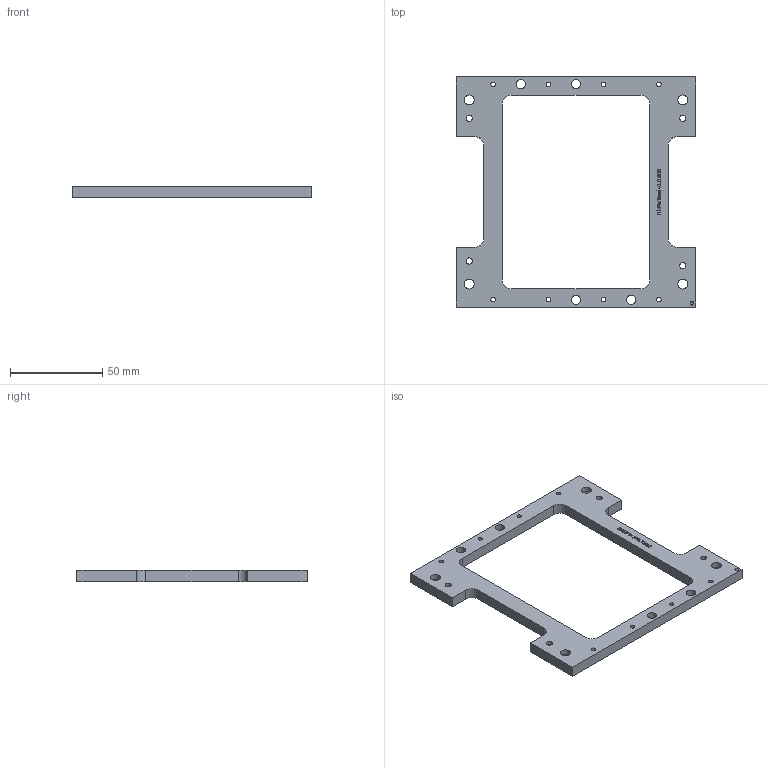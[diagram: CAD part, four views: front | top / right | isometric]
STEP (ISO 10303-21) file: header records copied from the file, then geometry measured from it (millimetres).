
FILE_DESCRIPTION(/* description */ ('Support Frame'),/* implementation_level */ '2;1');
FILE_NAME(/* name */ 'ITPT.03.00.001.stp',/* time_stamp */ '2025-02-12T14:40:31+01:00',/* author */ ('Rüdiger Widera'),/* organization */ (''),/* preprocessor_version */ 'ST-DEVELOPER v19.2',/* originating_system */ 'Autodesk Inventor 2024',/* authorisation */ '');
FILE_SCHEMA (('AUTOMOTIVE_DESIGN { 1 0 10303 214 3 1 1 }'));
Length unit declared in the file: millimetre
Products named in the file (1): ITPT.03.00.001
Bounding box: 130 x 125 x 6 mm (x, y, z)
Volume: 33986.5 mm3; surface area: 18808 mm2
Topology: 1 solids, 1 shells, 294 faces, 784 edges, 521 vertices
Faces by surface type: bspline 134, plane 122, cylinder 33, cone 5
Full cylindrical faces by diameter (mm): 2 x1, 2.459 x8, 3.4 x4, 5 x2, 5.1 x2, 5.4 x4, 8 x4
Entity records: 11889 total; most frequent: CARTESIAN_POINT 5249, ORIENTED_EDGE 1566, DIRECTION 907, EDGE_CURVE 783, VERTEX_POINT 521, LINE 445, VECTOR 445, EDGE_LOOP 366
